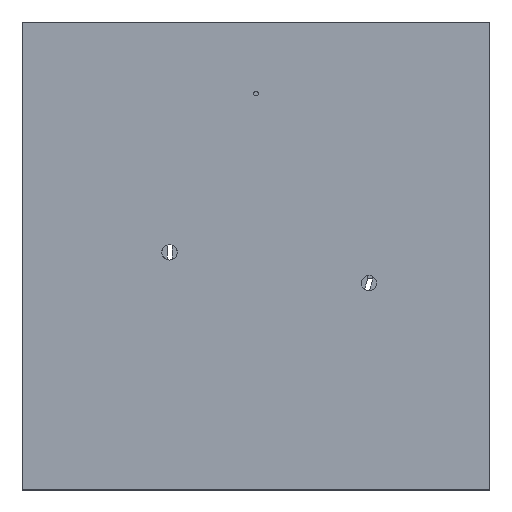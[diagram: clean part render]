
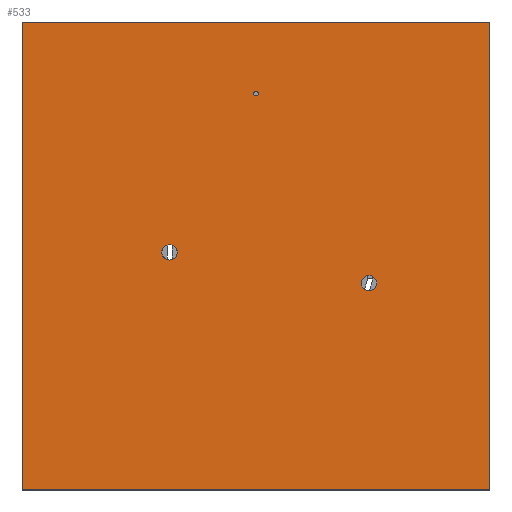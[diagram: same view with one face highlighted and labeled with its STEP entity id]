
A CAD part, top view. The second image highlights one B-rep face of the part: STEP entity #533.
In plain terms, the highlighted planar face has unit normal (0, 0, 1).
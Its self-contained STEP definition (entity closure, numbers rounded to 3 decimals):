
#533 = ADVANCED_FACE( '', ( #1225, #1226, #1227, #1228 ), #1229, .T. );
#1225 = FACE_BOUND( '', #2239, .T. );
#1226 = FACE_BOUND( '', #2240, .T. );
#1227 = FACE_BOUND( '', #2241, .T. );
#1228 = FACE_OUTER_BOUND( '', #2242, .T. );
#1229 = PLANE( '', #2243 );
#2239 = EDGE_LOOP( '', ( #3506 ) );
#2240 = EDGE_LOOP( '', ( #3507 ) );
#2241 = EDGE_LOOP( '', ( #3508 ) );
#2242 = EDGE_LOOP( '', ( #3509, #3510, #3511, #3512 ) );
#2243 = AXIS2_PLACEMENT_3D( '', #3513, #3514, #3515 );
#3506 = ORIENTED_EDGE( '', *, *, #5466, .F. );
#3507 = ORIENTED_EDGE( '', *, *, #5550, .F. );
#3508 = ORIENTED_EDGE( '', *, *, #5533, .F. );
#3509 = ORIENTED_EDGE( '', *, *, #5551, .T. );
#3510 = ORIENTED_EDGE( '', *, *, #5552, .T. );
#3511 = ORIENTED_EDGE( '', *, *, #5553, .T. );
#3512 = ORIENTED_EDGE( '', *, *, #5554, .T. );
#3513 = CARTESIAN_POINT( '', ( 0., 0., 30. ) );
#3514 = DIRECTION( '', ( 0., 0., 1. ) );
#3515 = DIRECTION( '', ( 1., 0., 0. ) );
#5466 = EDGE_CURVE( '', #6487, #6487, #6488, .T. );
#5533 = EDGE_CURVE( '', #6592, #6592, #6593, .T. );
#5550 = EDGE_CURVE( '', #6621, #6621, #6622, .T. );
#5551 = EDGE_CURVE( '', #6623, #6624, #6625, .T. );
#5552 = EDGE_CURVE( '', #6624, #6626, #6627, .T. );
#5553 = EDGE_CURVE( '', #6626, #6628, #6629, .T. );
#5554 = EDGE_CURVE( '', #6628, #6623, #6630, .T. );
#6487 = VERTEX_POINT( '', #7904 );
#6488 = CIRCLE( '', #7905, 7.5 );
#6592 = VERTEX_POINT( '', #8043 );
#6593 = CIRCLE( '', #8044, 25. );
#6621 = VERTEX_POINT( '', #8083 );
#6622 = CIRCLE( '', #8084, 25. );
#6623 = VERTEX_POINT( '', #8085 );
#6624 = VERTEX_POINT( '', #8086 );
#6625 = LINE( '', #8087, #8088 );
#6626 = VERTEX_POINT( '', #8089 );
#6627 = LINE( '', #8090, #8091 );
#6628 = VERTEX_POINT( '', #8092 );
#6629 = LINE( '', #8093, #8094 );
#6630 = LINE( '', #8095, #8096 );
#7904 = CARTESIAN_POINT( '', ( 765.5, 1284., 30. ) );
#7905 = AXIS2_PLACEMENT_3D( '', #9342, #9343, #9344 );
#8043 = CARTESIAN_POINT( '', ( 503., 770., 30. ) );
#8044 = AXIS2_PLACEMENT_3D( '', #9421, #9422, #9423 );
#8083 = CARTESIAN_POINT( '', ( 1149., 670., 30. ) );
#8084 = AXIS2_PLACEMENT_3D( '', #9438, #9439, #9440 );
#8085 = CARTESIAN_POINT( '', ( 1516., 1516., 30. ) );
#8086 = CARTESIAN_POINT( '', ( 0., 1516., 30. ) );
#8087 = CARTESIAN_POINT( '', ( 1516., 1516., 30. ) );
#8088 = VECTOR( '', #9441, 1000. );
#8089 = CARTESIAN_POINT( '', ( 0., 0., 30. ) );
#8090 = CARTESIAN_POINT( '', ( 0., 1516., 30. ) );
#8091 = VECTOR( '', #9442, 1000. );
#8092 = CARTESIAN_POINT( '', ( 1516., 0., 30. ) );
#8093 = CARTESIAN_POINT( '', ( 0., 0., 30. ) );
#8094 = VECTOR( '', #9443, 1000. );
#8095 = CARTESIAN_POINT( '', ( 1516., 0., 30. ) );
#8096 = VECTOR( '', #9444, 1000. );
#9342 = CARTESIAN_POINT( '', ( 758., 1284., 30. ) );
#9343 = DIRECTION( '', ( 0., 0., 1. ) );
#9344 = DIRECTION( '', ( 1., 0., 0. ) );
#9421 = CARTESIAN_POINT( '', ( 478., 770., 30. ) );
#9422 = DIRECTION( '', ( 0., 0., 1. ) );
#9423 = DIRECTION( '', ( 1., 0., 0. ) );
#9438 = CARTESIAN_POINT( '', ( 1124., 670., 30. ) );
#9439 = DIRECTION( '', ( 0., 0., 1. ) );
#9440 = DIRECTION( '', ( 1., 0., 0. ) );
#9441 = DIRECTION( '', ( -1., 0., 0. ) );
#9442 = DIRECTION( '', ( 0., -1., 0. ) );
#9443 = DIRECTION( '', ( 1., 0., 0. ) );
#9444 = DIRECTION( '', ( 0., 1., 0. ) );
